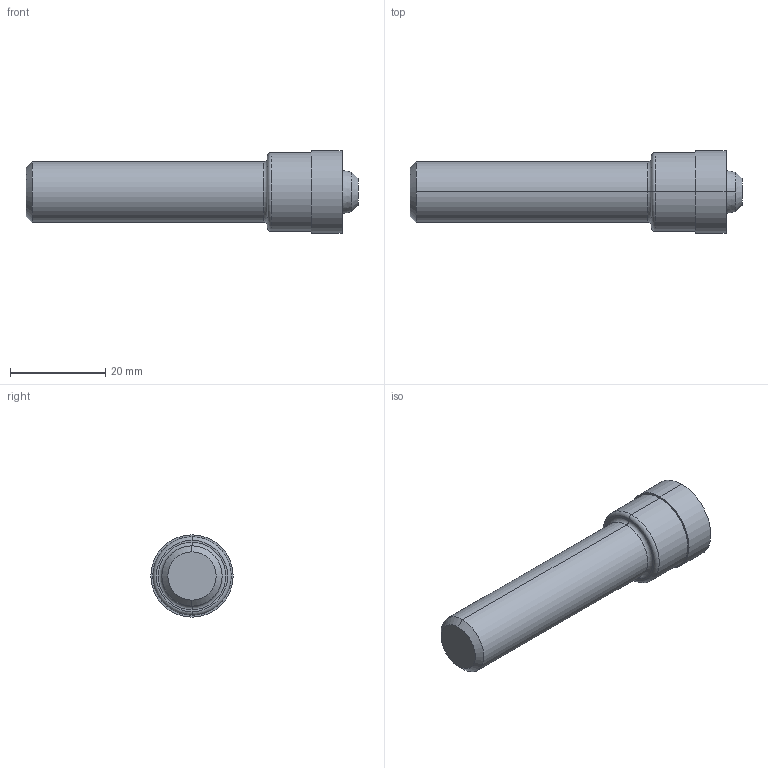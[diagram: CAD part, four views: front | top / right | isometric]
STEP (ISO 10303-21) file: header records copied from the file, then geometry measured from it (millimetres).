
FILE_DESCRIPTION (( 'STEP AP214' ), '1' );
FILE_NAME ('SAEJ1926-02X.STEP', '2023-11-07T17:16:17', ( '' ), ( '' ), 'SwSTEP 2.0', 'SolidWorks 2022', '' );
FILE_SCHEMA (( 'AUTOMOTIVE_DESIGN' ));
Length unit declared in the file: inch
Products named in the file (1): SAEJ1926-02X
Bounding box: 69.85 x 17.32 x 17.32 mm (x, y, z)
Volume: 10078.2 mm3; surface area: 3323.6 mm2
Topology: 1 solids, 1 shells, 23 faces, 44 edges, 26 vertices
Faces by surface type: cone 6, cylinder 6, torus 6, plane 5
Entity records: 630 total; most frequent: DIRECTION 124, CARTESIAN_POINT 94, ORIENTED_EDGE 88, AXIS2_PLACEMENT_3D 56, EDGE_CURVE 44, CIRCLE 32, VERTEX_POINT 26, EDGE_LOOP 26
